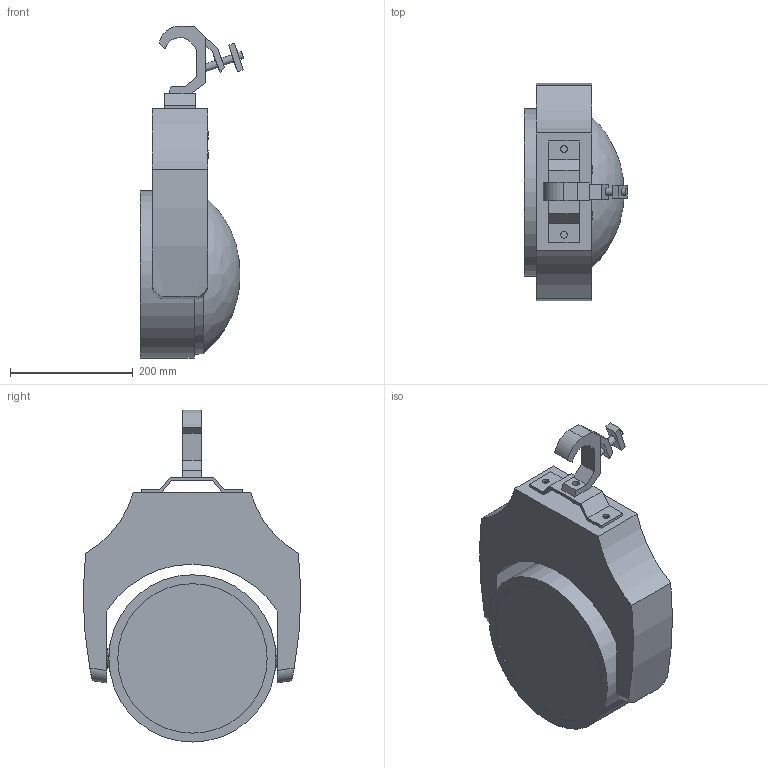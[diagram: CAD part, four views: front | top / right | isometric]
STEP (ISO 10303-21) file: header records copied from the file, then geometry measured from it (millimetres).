
FILE_DESCRIPTION( ( 'Unknown' ), '1' );
FILE_NAME( 'K:/ROBE-LED/24 Actor 6/3D_symbol/3D_Actor6_90.stp', 'Unknown', ( '*' ), ( '*' ), 'PSStep 15.0.49', 'SolidEdge', ' ' );
FILE_SCHEMA( ( 'AUTOMOTIVE_DESIGN { 1 0 10303 214 1 1 1 1 }' ) );
Length unit declared in the file: millimetre
Products named in the file (6): Omega_SlimClamp_90; Omega+SlimClamp; Clamp Doughty Slimline QT; Assem1; A6-Rameno; A6Hlava
Assembly tree (5 placements, depth 3):
  Assem1
    A6-Rameno
    A6Hlava
    Omega_SlimClamp_90
      Omega+SlimClamp
      Clamp Doughty Slimline QT
Bounding box: 169.14 x 355.2 x 542.05 mm (x, y, z)
Volume: 12502847.3 mm3; surface area: 522656.7 mm2
Topology: 4 solids, 4 shells, 109 faces, 270 edges, 182 vertices
Faces by surface type: plane 81, cylinder 26, bspline 1, cone 1
Full cylindrical faces by diameter (mm): 11 x4, 12 x4, 13 x2, 30 x1, 32.4 x2, 244 x1, 273 x1
Entity records: 4341 total; most frequent: CARTESIAN_POINT 852, DIRECTION 512, ORIENTED_EDGE 480, EDGE_CURVE 240, LINE 186, VECTOR 186, VERTEX_POINT 171, AXIS2_PLACEMENT_3D 163
